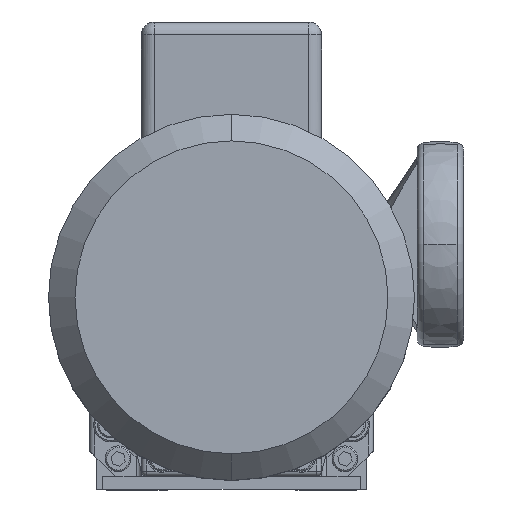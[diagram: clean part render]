
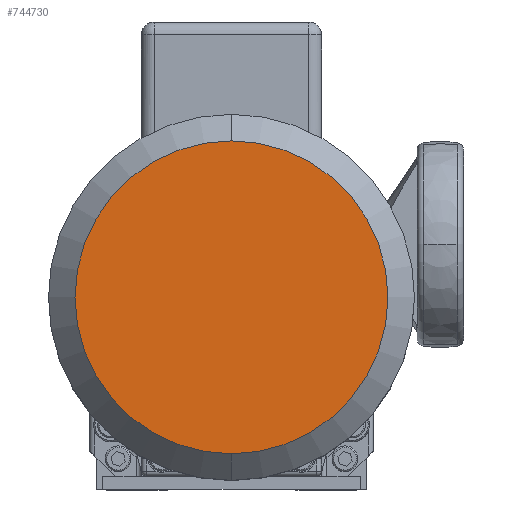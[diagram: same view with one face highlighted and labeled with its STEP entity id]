
A CAD part, top view. The second image highlights one B-rep face of the part: STEP entity #744730.
In plain terms, the highlighted planar face has unit normal (0, 0, 1) as drawn and (1, 0, 0) by its records, which use the part's own axes.
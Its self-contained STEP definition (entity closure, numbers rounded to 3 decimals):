
#739840=CARTESIAN_POINT('',(217.,-60.708,0.
));
#739850=VERTEX_POINT('',#739840);
#739880=CARTESIAN_POINT('',(217.,0.,
0.));
#739890=DIRECTION('',(1.,0.,0.));
#739900=DIRECTION('',(0.,1.,0.));
#739910=AXIS2_PLACEMENT_3D('',#739880,#739890,#739900);
#739920=CIRCLE('',#739910,60.708);
#739930=CARTESIAN_POINT('',(217.,60.708,0.))
;
#739940=VERTEX_POINT('',#739930);
#739950=EDGE_CURVE('',#739850,#739940,#739920,.T.);
#744630=CARTESIAN_POINT('',(217.,35.5,0.));
#744640=DIRECTION('',(1.,0.,0.));
#744650=DIRECTION('',(0.,0.,-1.));
#744660=AXIS2_PLACEMENT_3D('',#744630,#744640,#744650);
#744670=PLANE('',#744660);
#744680=ORIENTED_EDGE('',*,*,#739950,.T.);
#744690=EDGE_CURVE('',#739940,#739850,#739920,.T.);
#744700=ORIENTED_EDGE('',*,*,#744690,.T.);
#744710=EDGE_LOOP('',(#744700,#744680));
#744720=FACE_OUTER_BOUND('',#744710,.T.);
#744730=ADVANCED_FACE('',(#744720),#744670,.T.);
